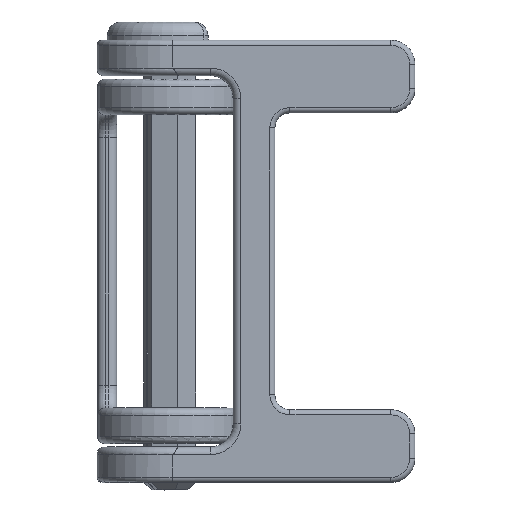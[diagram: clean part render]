
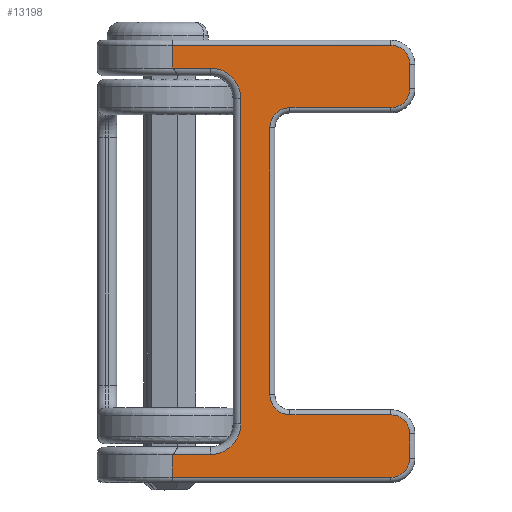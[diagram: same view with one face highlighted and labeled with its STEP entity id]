
A CAD part, top view. The second image highlights one B-rep face of the part: STEP entity #13198.
In plain terms, the highlighted planar face has unit normal (0, 0, 1).
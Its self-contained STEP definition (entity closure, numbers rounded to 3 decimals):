
#747=PLANE('',#14172);
#1496=LINE('',#20615,#2751);
#1508=LINE('',#20672,#2763);
#1545=LINE('',#20865,#2800);
#1548=LINE('',#20885,#2803);
#1550=LINE('',#20918,#2805);
#1551=LINE('',#20920,#2806);
#1552=LINE('',#20924,#2807);
#1553=LINE('',#20928,#2808);
#1554=LINE('',#20930,#2809);
#1555=LINE('',#20931,#2810);
#1556=LINE('',#20933,#2811);
#1557=LINE('',#20937,#2812);
#2751=VECTOR('',#15988,10.);
#2763=VECTOR('',#16056,10.);
#2800=VECTOR('',#16191,10.);
#2803=VECTOR('',#16198,10.);
#2805=VECTOR('',#16218,10.);
#2806=VECTOR('',#16219,10.);
#2807=VECTOR('',#16222,10.);
#2808=VECTOR('',#16225,10.);
#2809=VECTOR('',#16226,10.);
#2810=VECTOR('',#16227,10.);
#2811=VECTOR('',#16228,10.);
#2812=VECTOR('',#16231,10.);
#3959=FACE_OUTER_BOUND('',#4731,.T.);
#4731=EDGE_LOOP('',(#10371,#10372,#10373,#10374,#10375,#10376,#10377,#10378,
#10379,#10380,#10381,#10382,#10383,#10384,#10385,#10386,#10387,#10388,#10389,
#10390));
#5351=CIRCLE('',#14082,3.7);
#5355=CIRCLE('',#14088,3.7);
#5367=CIRCLE('',#14110,3.7);
#5370=CIRCLE('',#14115,3.7);
#5396=CIRCLE('',#14173,5.975);
#5397=CIRCLE('',#14174,5.975);
#5398=CIRCLE('',#14175,3.918);
#5399=CIRCLE('',#14176,3.918);
#6000=VERTEX_POINT('',#20602);
#6003=VERTEX_POINT('',#20607);
#6004=VERTEX_POINT('',#20611);
#6006=VERTEX_POINT('',#20617);
#6020=VERTEX_POINT('',#20665);
#6021=VERTEX_POINT('',#20667);
#6022=VERTEX_POINT('',#20671);
#6023=VERTEX_POINT('',#20675);
#6072=VERTEX_POINT('',#20864);
#6075=VERTEX_POINT('',#20872);
#6083=VERTEX_POINT('',#20917);
#6084=VERTEX_POINT('',#20919);
#6085=VERTEX_POINT('',#20921);
#6086=VERTEX_POINT('',#20923);
#6087=VERTEX_POINT('',#20925);
#6088=VERTEX_POINT('',#20927);
#6089=VERTEX_POINT('',#20929);
#6090=VERTEX_POINT('',#20932);
#6091=VERTEX_POINT('',#20934);
#6092=VERTEX_POINT('',#20936);
#7514=EDGE_CURVE('',#6003,#6000,#5351,.T.);
#7517=EDGE_CURVE('',#6000,#6004,#1496,.T.);
#7520=EDGE_CURVE('',#6004,#6006,#5355,.T.);
#7543=EDGE_CURVE('',#6020,#6021,#5367,.T.);
#7545=EDGE_CURVE('',#6021,#6022,#1508,.T.);
#7547=EDGE_CURVE('',#6022,#6023,#5370,.T.);
#7616=EDGE_CURVE('',#6023,#6072,#1545,.T.);
#7621=EDGE_CURVE('',#6075,#6020,#1548,.T.);
#7630=EDGE_CURVE('',#6075,#6083,#1550,.T.);
#7631=EDGE_CURVE('',#6083,#6084,#1551,.T.);
#7632=EDGE_CURVE('',#6084,#6085,#5396,.T.);
#7633=EDGE_CURVE('',#6086,#6085,#1552,.T.);
#7634=EDGE_CURVE('',#6087,#6086,#5397,.T.);
#7635=EDGE_CURVE('',#6088,#6087,#1553,.T.);
#7636=EDGE_CURVE('',#6089,#6088,#1554,.T.);
#7637=EDGE_CURVE('',#6006,#6089,#1555,.T.);
#7638=EDGE_CURVE('',#6090,#6003,#1556,.T.);
#7639=EDGE_CURVE('',#6091,#6090,#5398,.T.);
#7640=EDGE_CURVE('',#6092,#6091,#1557,.T.);
#7641=EDGE_CURVE('',#6072,#6092,#5399,.T.);
#10371=ORIENTED_EDGE('',*,*,#7621,.F.);
#10372=ORIENTED_EDGE('',*,*,#7630,.T.);
#10373=ORIENTED_EDGE('',*,*,#7631,.T.);
#10374=ORIENTED_EDGE('',*,*,#7632,.T.);
#10375=ORIENTED_EDGE('',*,*,#7633,.F.);
#10376=ORIENTED_EDGE('',*,*,#7634,.F.);
#10377=ORIENTED_EDGE('',*,*,#7635,.F.);
#10378=ORIENTED_EDGE('',*,*,#7636,.F.);
#10379=ORIENTED_EDGE('',*,*,#7637,.F.);
#10380=ORIENTED_EDGE('',*,*,#7520,.F.);
#10381=ORIENTED_EDGE('',*,*,#7517,.F.);
#10382=ORIENTED_EDGE('',*,*,#7514,.F.);
#10383=ORIENTED_EDGE('',*,*,#7638,.F.);
#10384=ORIENTED_EDGE('',*,*,#7639,.F.);
#10385=ORIENTED_EDGE('',*,*,#7640,.F.);
#10386=ORIENTED_EDGE('',*,*,#7641,.F.);
#10387=ORIENTED_EDGE('',*,*,#7616,.F.);
#10388=ORIENTED_EDGE('',*,*,#7547,.F.);
#10389=ORIENTED_EDGE('',*,*,#7545,.F.);
#10390=ORIENTED_EDGE('',*,*,#7543,.F.);
#13198=ADVANCED_FACE('',(#3959),#747,.F.);
#14082=AXIS2_PLACEMENT_3D('',#20609,#15981,#15982);
#14088=AXIS2_PLACEMENT_3D('',#20621,#15995,#15996);
#14110=AXIS2_PLACEMENT_3D('',#20668,#16050,#16051);
#14115=AXIS2_PLACEMENT_3D('',#20676,#16061,#16062);
#14172=AXIS2_PLACEMENT_3D('',#20916,#16216,#16217);
#14173=AXIS2_PLACEMENT_3D('',#20922,#16220,#16221);
#14174=AXIS2_PLACEMENT_3D('',#20926,#16223,#16224);
#14175=AXIS2_PLACEMENT_3D('',#20935,#16229,#16230);
#14176=AXIS2_PLACEMENT_3D('',#20938,#16232,#16233);
#15981=DIRECTION('center_axis',(0.,0.,
-1.));
#15982=DIRECTION('ref_axis',(0.707,0.707,0.));
#15988=DIRECTION('',(0.,-1.,0.));
#15995=DIRECTION('center_axis',(0.,0.,
-1.));
#15996=DIRECTION('ref_axis',(0.707,-0.707,0.));
#16050=DIRECTION('center_axis',(0.,0.,
-1.));
#16051=DIRECTION('ref_axis',(0.707,0.707,0.));
#16056=DIRECTION('',(0.,-1.,0.));
#16061=DIRECTION('center_axis',(0.,0.,
-1.));
#16062=DIRECTION('ref_axis',(0.707,-0.707,0.));
#16191=DIRECTION('',(-1.,0.,0.));
#16198=DIRECTION('',(1.,0.,0.));
#16216=DIRECTION('center_axis',(0.,0.,
-1.));
#16217=DIRECTION('ref_axis',(0.,1.,0.));
#16218=DIRECTION('',(0.,-1.,0.));
#16219=DIRECTION('',(1.,0.,0.));
#16220=DIRECTION('center_axis',(0.,0.,
-1.));
#16221=DIRECTION('ref_axis',(0.707,0.707,0.));
#16222=DIRECTION('',(0.,1.,0.));
#16223=DIRECTION('center_axis',(0.,0.,
1.));
#16224=DIRECTION('ref_axis',(0.707,-0.707,0.));
#16225=DIRECTION('',(1.,0.,0.));
#16226=DIRECTION('',(0.,1.,0.));
#16227=DIRECTION('',(-1.,0.,0.));
#16228=DIRECTION('',(1.,0.,0.));
#16229=DIRECTION('center_axis',(0.,0.,
1.));
#16230=DIRECTION('ref_axis',(-0.707,-0.707,0.));
#16231=DIRECTION('',(0.,-1.,0.));
#16232=DIRECTION('center_axis',(0.,0.,
1.));
#16233=DIRECTION('ref_axis',(-0.707,0.707,0.));
#20602=CARTESIAN_POINT('',(46.772,-99.282,14.218));
#20607=CARTESIAN_POINT('',(43.072,-95.582,14.218));
#20609=CARTESIAN_POINT('Origin',(43.072,-99.282,14.218));
#20611=CARTESIAN_POINT('',(46.772,-104.062,14.218));
#20615=CARTESIAN_POINT('',(46.772,-64.743,14.218));
#20617=CARTESIAN_POINT('',(43.072,-107.762,14.218));
#20621=CARTESIAN_POINT('Origin',(43.072,-104.062,14.218));
#20665=CARTESIAN_POINT('',(43.072,-23.531,14.218));
#20667=CARTESIAN_POINT('',(46.772,-27.231,14.218));
#20668=CARTESIAN_POINT('Origin',(43.072,-27.231,14.218));
#20671=CARTESIAN_POINT('',(46.772,-32.011,14.218));
#20672=CARTESIAN_POINT('',(46.772,-64.743,14.218));
#20675=CARTESIAN_POINT('',(43.072,-35.711,14.218));
#20676=CARTESIAN_POINT('Origin',(43.072,-32.011,14.218));
#20864=CARTESIAN_POINT('',(23.401,-35.711,14.218));
#20865=CARTESIAN_POINT('',(36.628,-35.711,14.218));
#20872=CARTESIAN_POINT('',(0.431,-23.531,14.218));
#20885=CARTESIAN_POINT('',(55.416,-23.531,14.218));
#20916=CARTESIAN_POINT('Origin',(35.772,-64.743,14.218));
#20917=CARTESIAN_POINT('',(0.431,-27.959,14.218));
#20918=CARTESIAN_POINT('',(0.431,-29.88,14.218));
#20919=CARTESIAN_POINT('',(7.844,-27.959,14.218));
#20920=CARTESIAN_POINT('',(22.023,-27.959,14.218));
#20921=CARTESIAN_POINT('',(13.819,-33.934,14.218));
#20922=CARTESIAN_POINT('Origin',(7.844,-33.934,14.218));
#20923=CARTESIAN_POINT('',(13.819,-97.359,14.218));
#20924=CARTESIAN_POINT('',(13.819,-64.743,14.218));
#20925=CARTESIAN_POINT('',(7.844,-103.334,14.218));
#20926=CARTESIAN_POINT('Origin',(7.844,-97.359,14.218));
#20927=CARTESIAN_POINT('',(0.431,-103.334,14.218));
#20928=CARTESIAN_POINT('',(22.023,-103.334,14.218));
#20929=CARTESIAN_POINT('',(0.431,-107.762,14.218));
#20930=CARTESIAN_POINT('',(0.431,-101.413,14.218));
#20931=CARTESIAN_POINT('',(55.416,-107.762,14.218));
#20932=CARTESIAN_POINT('',(23.401,-95.582,14.218));
#20933=CARTESIAN_POINT('',(36.628,-95.582,14.218));
#20934=CARTESIAN_POINT('',(19.483,-91.664,14.218));
#20935=CARTESIAN_POINT('Origin',(23.401,-91.664,14.218));
#20936=CARTESIAN_POINT('',(19.483,-39.629,14.218));
#20937=CARTESIAN_POINT('',(19.483,-49.727,14.218));
#20938=CARTESIAN_POINT('Origin',(23.401,-39.629,14.218));
